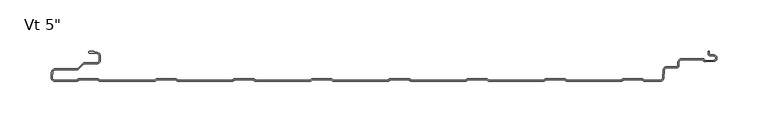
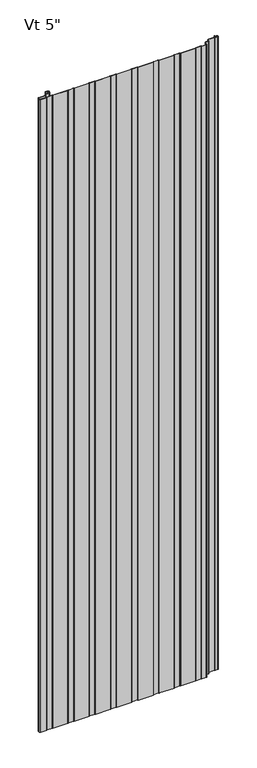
"""IFC4 building model written with IfcOpenShell, lengths in millimetres: plate geometry."""

from ifc_helpers import new_model, si_unit, point, frame_2d, origin, origin_with_axes, place, context, project, spatial, polyline, circle_curve, trimmed, segment, composite_curve, outline, extrude, source, transform, mapped, element, save


def plate_22b19f27(model_context):
    return source(origin(), model_context, "Body", "SweptSolid", [
        extrude(outline(composite_curve([segment(polyline([(-315.4415934, -126.9997378), (-337.2521176, -126.9997378)]), True, "CONTINUOUS"), segment(trimmed(circle_curve(frame_2d((-337.2521176, -123.4294985)), 3.5702393), [point((-337.2521176, -126.9997378))], [point((-340.808762, -123.1182281))], False, "CARTESIAN"), True, "CONTINUOUS"), segment(polyline([(-340.808762, -123.1182281), (-340.3690675, -118.0941815)]), True, "CONTINUOUS"), segment(trimmed(circle_curve(frame_2d((-336.7198392, -118.7049826)), 3.6999926), [point((-340.3690675, -118.0941815))], [point((-336.7198392, -115.00499))], False, "CARTESIAN"), True, "CONTINUOUS"), segment(polyline([(-336.7198392, -115.00499), (-315.5773997, -115.00499)]), True, "CONTINUOUS"), segment(trimmed(circle_curve(frame_2d((-315.5773997, -113.7049926)), 1.2999974), [point((-315.5773997, -115.00499))], [point((-314.6581627, -114.6242296))], True, "CARTESIAN"), True, "CONTINUOUS"), segment(polyline([(-314.6581627, -114.6242296), (-309.8297453, -109.7958121)]), True, "CONTINUOUS"), segment(trimmed(circle_curve(frame_2d((-307.9205608, -111.7049966)), 2.6999946), [point((-309.8297453, -109.7958121))], [point((-307.9205608, -109.005002))], False, "CARTESIAN"), True, "CONTINUOUS"), segment(polyline([(-307.9205608, -109.005002), (-296.1096717, -109.005002)]), True, "CONTINUOUS"), segment(trimmed(circle_curve(frame_2d((-296.1096717, -106.6550067)), 2.3499953), [point((-296.1096717, -109.005002))], [point((-293.7596764, -106.6550067))], True, "CARTESIAN"), True, "CONTINUOUS"), segment(polyline([(-293.7596764, -106.6550067), (-293.7596764, -102.2550155)]), True, "CONTINUOUS"), segment(trimmed(circle_curve(frame_2d((-296.1096717, -102.2550155)), 2.3499953), [point((-293.7596764, -102.2550155))], [point((-296.1096717, -99.9050202))], True, "CARTESIAN"), True, "CONTINUOUS"), segment(polyline([(-296.1096717, -99.9050202), (-302.6289779, -99.9050202)]), True, "CONTINUOUS"), segment(trimmed(circle_curve(frame_2d((-302.5686908, -98.706538)), 1.1999976), [point((-302.6289779, -99.9050202))], [point((-303.7683001, -98.6760161))], False, "CARTESIAN"), True, "CONTINUOUS"), segment(trimmed(circle_curve(frame_2d((-302.5686908, -98.706538)), 1.1999976), [point((-303.7683001, -98.6760161))], [point((-302.5671761, -97.5065413))], False, "CARTESIAN"), True, "CONTINUOUS"), segment(polyline([(-302.5671761, -97.5065413), (-298.8087827, -97.5065413), (-298.8087827, -98.9050202), (-296.1096717, -98.9050202)]), True, "CONTINUOUS"), segment(trimmed(circle_curve(frame_2d((-296.1096717, -102.2550155)), 3.3499953), [point((-296.1096717, -98.9050202))], [point((-292.7596764, -102.2550155))], False, "CARTESIAN"), True, "CONTINUOUS"), segment(polyline([(-292.7596764, -102.2550155), (-292.7596764, -106.6550067)]), True, "CONTINUOUS"), segment(trimmed(circle_curve(frame_2d((-296.1096717, -106.6550067)), 3.3499953), [point((-292.7596764, -106.6550067))], [point((-296.1096717, -110.005002))], False, "CARTESIAN"), True, "CONTINUOUS"), segment(polyline([(-296.1096717, -110.005002), (-307.9205608, -110.005002)]), True, "CONTINUOUS"), segment(trimmed(circle_curve(frame_2d((-307.9205608, -111.7049966)), 1.6999946), [point((-307.9205608, -110.005002))], [point((-309.1226385, -110.5029189))], True, "CARTESIAN"), True, "CONTINUOUS"), segment(polyline([(-309.1226385, -110.5029189), (-314.6247096, -116.00499), (-336.7198392, -116.00499)]), True, "CONTINUOUS"), segment(trimmed(circle_curve(frame_2d((-336.7198392, -118.7049826)), 2.6999926), [point((-336.7198392, -116.00499))], [point((-339.3765709, -118.223592))], True, "CARTESIAN"), True, "CONTINUOUS"), segment(polyline([(-339.3765709, -118.223592), (-339.8125699, -123.2054129)]), True, "CONTINUOUS"), segment(trimmed(circle_curve(frame_2d((-337.2521176, -123.4294985)), 2.5702393), [point((-339.8125699, -123.2054129))], [point((-337.2521176, -125.9997378))], True, "CARTESIAN"), True, "CONTINUOUS"), segment(polyline([(-337.2521176, -125.9997378), (-315.2790962, -125.9997378), (-314.0791277, -124.7997693), (-294.3597151, -124.7997693), (-293.1594844, -126.0), (-239.0793527, -126.0), (-237.879122, -124.7997693), (-218.1597095, -124.7997693), (-216.9594787, -126.0), (-162.879347, -126.0), (-161.6791163, -124.7997693), (-141.9597038, -124.7997693), (-140.7594731, -126.0), (-86.6793413, -126.0), (-85.4791106, -124.7997693), (-65.7596981, -124.7997693), (-64.5594674, -126.0), (-10.4793356, -126.0), (-9.2791049, -124.7997693), (10.4403076, -124.7997693), (11.6405383, -126.0), (65.7206701, -126.0), (66.9209008, -124.7997693), (86.6403133, -124.7997693), (87.840544, -126.0), (141.9206758, -126.0), (143.1209065, -124.7997693), (162.840319, -124.7997693), (164.0405497, -126.0), (218.1206815, -126.0), (219.3209122, -124.7997693), (239.0403247, -124.7997693), (240.2396538, -125.9990984), (256.3384359, -125.9990984)]), True, "CONTINUOUS"), segment(trimmed(circle_curve(frame_2d((256.3384359, -124.0491043)), 1.9499941), [point((256.3384359, -125.9990984))], [point((258.2810097, -124.2190575))], True, "CARTESIAN"), True, "CONTINUOUS"), segment(polyline([(258.2810097, -124.2190575), (259.0215397, -115.754761)]), True, "CONTINUOUS"), segment(trimmed(circle_curve(frame_2d((262.0400056, -116.0188426)), 3.0299959), [point((259.0215397, -115.754761))], [point((262.1657441, -112.9914567))], False, "CARTESIAN"), True, "CONTINUOUS"), segment(polyline([(262.1657441, -112.9914567), (272.2595941, -112.9914567)]), True, "CONTINUOUS"), segment(trimmed(circle_curve(frame_2d((272.2595941, -112.0423033)), 0.9491534), [point((272.2595941, -112.9914567))], [point((273.2087475, -112.0423033))], True, "CARTESIAN"), True, "CONTINUOUS"), segment(polyline([(273.2087475, -112.0423033), (273.2087475, -108.9009036)]), True, "CONTINUOUS"), segment(trimmed(circle_curve(frame_2d((277.2087415, -108.9009036)), 3.999994), [point((273.2087475, -108.9009036))], [point((277.2087415, -104.9009096))], False, "CARTESIAN"), True, "CONTINUOUS"), segment(polyline([(277.2087415, -104.9009096), (298.3895515, -104.9009096), (299.5334028, -106.8821181), (308.506811, -106.5268578)]), True, "CONTINUOUS"), segment(trimmed(circle_curve(frame_2d((308.4236622, -104.4266291)), 2.1018739), [point((308.506811, -106.5268578))], [point((308.5037148, -102.3262802))], True, "CARTESIAN"), True, "CONTINUOUS"), segment(polyline([(308.5037148, -102.3262802), (304.4977997, -102.0818653)]), True, "CONTINUOUS"), segment(trimmed(circle_curve(frame_2d((304.6099653, -100.2434917)), 1.8417922), [point((304.4977997, -102.0818653))], [point((302.7686884, -100.2870527))], False, "CARTESIAN"), True, "CONTINUOUS"), segment(polyline([(302.7686884, -100.2870527), (302.7686884, -97.5025061), (303.7686884, -97.5025061), (303.7686884, -100.2729389)]), True, "CONTINUOUS"), segment(trimmed(circle_curve(frame_2d((304.6099653, -100.2434917)), 0.8417922), [point((303.7686884, -100.2729389))], [point((304.5587, -101.0837214))], True, "CARTESIAN"), True, "CONTINUOUS"), segment(polyline([(304.5587, -101.0837214), (308.5543204, -101.3275082)]), True, "CONTINUOUS"), segment(trimmed(circle_curve(frame_2d((308.4236622, -104.4266291)), 3.1018739), [point((308.5543204, -101.3275082))], [point((308.5463704, -107.526075))], False, "CARTESIAN"), True, "CONTINUOUS"), segment(polyline([(308.5463704, -107.526075), (299.8344401, -107.8709833)]), True, "CONTINUOUS"), segment(trimmed(circle_curve(frame_2d((299.787224, -106.4217552)), 1.4499971), [point((299.8344401, -107.8709833))], [point((298.5314897, -107.1467537))], False, "CARTESIAN"), True, "CONTINUOUS"), segment(polyline([(298.5314897, -107.1467537), (297.8122013, -105.9009096), (277.2087415, -105.9009096)]), True, "CONTINUOUS"), segment(trimmed(circle_curve(frame_2d((277.2087415, -108.9009036)), 2.999994), [point((277.2087415, -105.9009096))], [point((274.2087475, -108.9009036))], True, "CARTESIAN"), True, "CONTINUOUS"), segment(polyline([(274.2087475, -108.9009036), (274.2087475, -112.0423033)]), True, "CONTINUOUS"), segment(trimmed(circle_curve(frame_2d((272.2595941, -112.0423033)), 1.9491534), [point((274.2087475, -112.0423033))], [point((272.2595941, -113.9914567))], False, "CARTESIAN"), True, "CONTINUOUS"), segment(polyline([(272.2595941, -113.9914567), (262.1429135, -113.9914567)]), True, "CONTINUOUS"), segment(trimmed(circle_curve(frame_2d((262.0400056, -116.0188426)), 2.0299959), [point((262.1429135, -113.9914567))], [point((260.0177344, -115.8419168))], True, "CARTESIAN"), True, "CONTINUOUS"), segment(polyline([(260.0177344, -115.8419168), (259.2772044, -124.3062132)]), True, "CONTINUOUS"), segment(trimmed(circle_curve(frame_2d((256.3384359, -124.0491043)), 2.9499941), [point((259.2772044, -124.3062132))], [point((256.3384359, -126.9990984))], False, "CARTESIAN"), True, "CONTINUOUS"), segment(polyline([(256.3384359, -126.9990984), (240.4528361, -126.9990984)]), True, "CONTINUOUS"), segment(trimmed(circle_curve(frame_2d((240.4020209, -125.6000237)), 1.3999972), [point((240.4528361, -126.9990984))], [point((239.3579701, -126.5327349))], False, "CARTESIAN"), True, "CONTINUOUS"), segment(polyline([(239.3579701, -126.5327349), (238.6250045, -125.7997693), (219.7343353, -125.7997693), (219.0013906, -126.532714)]), True, "CONTINUOUS"), segment(trimmed(circle_curve(frame_2d((217.9573398, -125.6000028)), 1.3999972), [point((219.0013906, -126.532714))], [point((217.9573398, -127.0))], False, "CARTESIAN"), True, "CONTINUOUS"), segment(polyline([(217.9573398, -127.0), (164.2098266, -127.0)]), True, "CONTINUOUS"), segment(trimmed(circle_curve(frame_2d((164.2021733, -125.6000237)), 1.3999972), [point((164.2098266, -127.0))], [point((163.1581225, -126.5327349))], False, "CARTESIAN"), True, "CONTINUOUS"), segment(polyline([(163.1581225, -126.5327349), (162.4251569, -125.7997693), (143.5344877, -125.7997693), (142.801543, -126.532714)]), True, "CONTINUOUS"), segment(trimmed(circle_curve(frame_2d((141.7574922, -125.6000028)), 1.3999972), [point((142.801543, -126.532714))], [point((141.7574922, -127.0))], False, "CARTESIAN"), True, "CONTINUOUS"), segment(polyline([(141.7574922, -127.0), (88.009979, -127.0)]), True, "CONTINUOUS"), segment(trimmed(circle_curve(frame_2d((88.0023257, -125.6000237)), 1.3999972), [point((88.009979, -127.0))], [point((86.9582749, -126.5327349))], False, "CARTESIAN"), True, "CONTINUOUS"), segment(polyline([(86.9582749, -126.5327349), (86.2253093, -125.7997693), (67.3346401, -125.7997693), (66.6016954, -126.532714)]), True, "CONTINUOUS"), segment(trimmed(circle_curve(frame_2d((65.5576446, -125.6000028)), 1.3999972), [point((66.6016954, -126.532714))], [point((65.5576446, -127.0))], False, "CARTESIAN"), True, "CONTINUOUS"), segment(polyline([(65.5576446, -127.0), (11.8101314, -127.0)]), True, "CONTINUOUS"), segment(trimmed(circle_curve(frame_2d((11.8024781, -125.6000237)), 1.3999972), [point((11.8101314, -127.0))], [point((10.7584273, -126.5327349))], False, "CARTESIAN"), True, "CONTINUOUS"), segment(polyline([(10.7584273, -126.5327349), (10.0254617, -125.7997693), (-8.8652075, -125.7997693), (-9.5981522, -126.532714)]), True, "CONTINUOUS"), segment(trimmed(circle_curve(frame_2d((-10.642203, -125.6000028)), 1.3999972), [point((-9.5981522, -126.532714))], [point((-10.642203, -127.0))], False, "CARTESIAN"), True, "CONTINUOUS"), segment(polyline([(-10.642203, -127.0), (-64.3897162, -127.0)]), True, "CONTINUOUS"), segment(trimmed(circle_curve(frame_2d((-64.3973695, -125.6000237)), 1.3999972), [point((-64.3897162, -127.0))], [point((-65.4414203, -126.5327349))], False, "CARTESIAN"), True, "CONTINUOUS"), segment(polyline([(-65.4414203, -126.5327349), (-66.1743859, -125.7997693), (-85.0650551, -125.7997693), (-85.7979998, -126.532714)]), True, "CONTINUOUS"), segment(trimmed(circle_curve(frame_2d((-86.8420506, -125.6000028)), 1.3999972), [point((-85.7979998, -126.532714))], [point((-86.8420506, -127.0))], False, "CARTESIAN"), True, "CONTINUOUS"), segment(polyline([(-86.8420506, -127.0), (-140.5895638, -127.0)]), True, "CONTINUOUS"), segment(trimmed(circle_curve(frame_2d((-140.5972171, -125.6000237)), 1.3999972), [point((-140.5895638, -127.0))], [point((-141.6412679, -126.5327349))], False, "CARTESIAN"), True, "CONTINUOUS"), segment(polyline([(-141.6412679, -126.5327349), (-142.3742335, -125.7997693), (-161.2649027, -125.7997693), (-161.9978474, -126.532714)]), True, "CONTINUOUS"), segment(trimmed(circle_curve(frame_2d((-163.0418982, -125.6000028)), 1.3999972), [point((-161.9978474, -126.532714))], [point((-163.0418982, -127.0))], False, "CARTESIAN"), True, "CONTINUOUS"), segment(polyline([(-163.0418982, -127.0), (-216.7894114, -127.0)]), True, "CONTINUOUS"), segment(trimmed(circle_curve(frame_2d((-216.7970647, -125.6000237)), 1.3999972), [point((-216.7894114, -127.0))], [point((-217.8411155, -126.5327349))], False, "CARTESIAN"), True, "CONTINUOUS"), segment(polyline([(-217.8411155, -126.5327349), (-218.5740811, -125.7997693), (-237.4647503, -125.7997693), (-238.197695, -126.532714)]), True, "CONTINUOUS"), segment(trimmed(circle_curve(frame_2d((-239.2417458, -125.6000028)), 1.3999972), [point((-238.197695, -126.532714))], [point((-239.2417458, -127.0))], False, "CARTESIAN"), True, "CONTINUOUS"), segment(polyline([(-239.2417458, -127.0), (-292.989259, -127.0)]), True, "CONTINUOUS"), segment(trimmed(circle_curve(frame_2d((-292.9969123, -125.6000237)), 1.3999972), [point((-292.989259, -127.0))], [point((-294.0409631, -126.5327349))], False, "CARTESIAN"), True, "CONTINUOUS"), segment(polyline([(-294.0409631, -126.5327349), (-294.7739287, -125.7997693), (-313.6649141, -125.7997693), (-314.3976403, -126.5324955)]), True, "CONTINUOUS"), segment(trimmed(circle_curve(frame_2d((-315.4415934, -125.5998717)), 1.3998661), [point((-314.3976403, -126.5324955))], [point((-315.4415934, -126.9997378))], False, "CARTESIAN"), True, "CONTINUOUS")], self_intersect=False)), origin_with_axes(), (0.0, 0.0, 1.0), 2400.0),
    ])


if __name__ == "__main__":
    model = new_model("IFC4")
    model_context = context("Model", 3, world=origin())
    ifc_project = project(units=[si_unit("LENGTHUNIT", "METRE", prefix="MILLI")], contexts=[model_context])
    site = spatial("IfcSite", under=ifc_project)
    building = spatial("IfcBuilding", under=site)
    placement = place(None, origin())
    plate_shape = plate_22b19f27(model_context)
    element("IfcPlate", 1, ObjectType="KIP-24-Karrier-KP-R19-CP-Vt-SL3-8in_SL : Vt 5\"", at=placement, inside=building, context=model_context, shape_type="MappedRepresentation", body=[
        mapped(plate_shape, transform((0.0, 0.0, 0.0), x_axis=(1.0, 0.0, 0.0), y_axis=(0.0, 1.0, 0.0), z_axis=(0.0, 0.0, 1.0))),
    ])
    save(model, "model.ifc")
